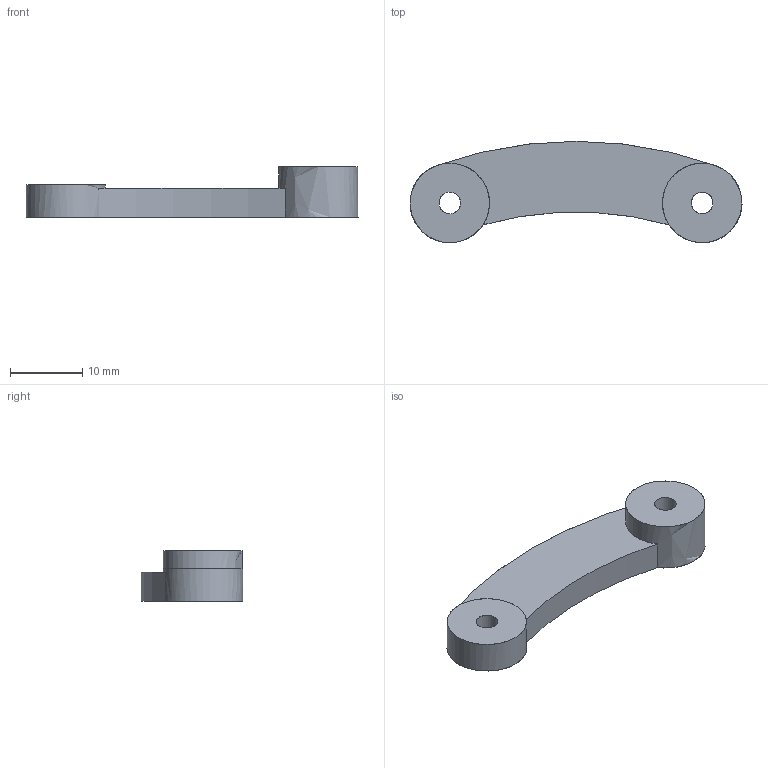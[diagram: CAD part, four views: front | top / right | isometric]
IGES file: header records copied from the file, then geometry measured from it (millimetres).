
Global section: file name: C:\Users\gehrichcr\Documents\1 Drive Backup\Practice\Inspire\V1.5\IGES\Boom Lift Linkage Sweep 1.igs; native system: NX V8.5; preprocessor: SIEMENS PLM Software NX 8.5; date: 20150619.102238; units: millimetre
Bounding box: 46.05 x 14.05 x 7 mm (x, y, z)
Surface area: 1569.6 mm2 (no closed solid volume)
Topology: 0 solids, 0 shells, 17 faces, 144 edges, 144 vertices
Faces by surface type: bspline 17
